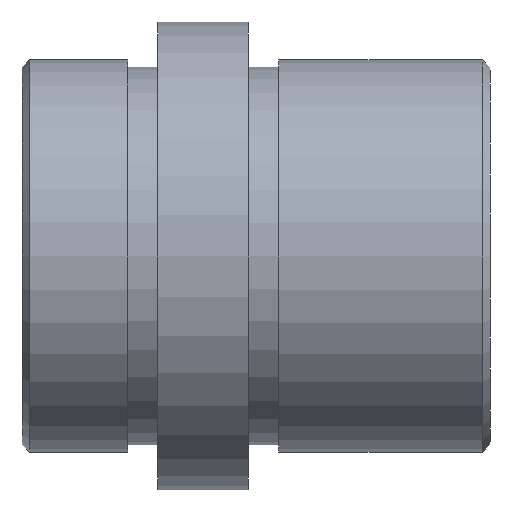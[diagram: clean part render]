
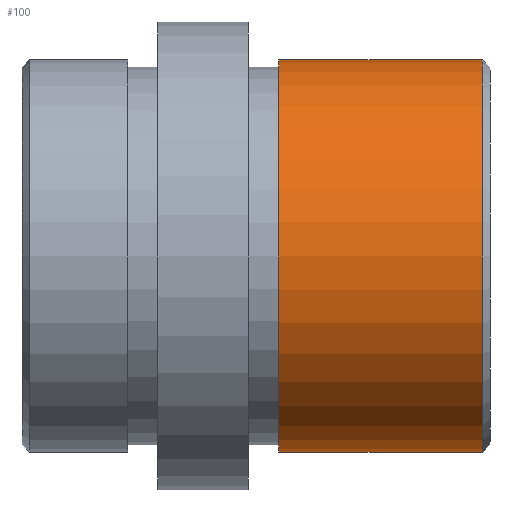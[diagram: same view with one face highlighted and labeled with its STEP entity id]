
A CAD part, front view. The second image highlights one B-rep face of the part: STEP entity #100.
In plain terms, the highlighted face is a revolution surface.
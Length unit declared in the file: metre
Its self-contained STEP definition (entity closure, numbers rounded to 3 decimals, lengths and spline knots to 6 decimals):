
#100 = ADVANCED_FACE( '', ( #157 ), #158, .F. );
#157 = FACE_OUTER_BOUND( '', #250, .T. );
#158 = SURFACE_OF_REVOLUTION( '', #251, #252 );
#250 = EDGE_LOOP( '', ( #419, #420, #421, #422 ) );
#251 = B_SPLINE_CURVE_WITH_KNOTS( '', 1, ( #423, #424 ), .UNSPECIFIED., .F., .F., ( 2, 2 ), ( -10000., 10000. ), .UNSPECIFIED. );
#252 = AXIS1_PLACEMENT( '', #425, #426 );
#419 = ORIENTED_EDGE( '', *, *, #492, .T. );
#420 = ORIENTED_EDGE( '', *, *, #490, .T. );
#421 = ORIENTED_EDGE( '', *, *, #445, .F. );
#422 = ORIENTED_EDGE( '', *, *, #489, .T. );
#423 = CARTESIAN_POINT( '', ( 10000.0305, 0., 0.013 ) );
#424 = CARTESIAN_POINT( '', ( -9999.9695, 0., 0.013 ) );
#425 = CARTESIAN_POINT( '', ( 0., 0., 0. ) );
#426 = DIRECTION( '', ( 1., 0., 0. ) );
#445 = EDGE_CURVE( '', #499, #500, #501, .T. );
#489 = EDGE_CURVE( '', #499, #571, #572, .F. );
#490 = EDGE_CURVE( '', #573, #500, #574, .T. );
#492 = EDGE_CURVE( '', #571, #573, #576, .T. );
#499 = VERTEX_POINT( '', #583 );
#500 = VERTEX_POINT( '', #584 );
#501 = CIRCLE( '', #585, 0.013 );
#571 = VERTEX_POINT( '', #671 );
#572 = LINE( '', #672, #673 );
#573 = VERTEX_POINT( '', #674 );
#574 = LINE( '', #675, #676 );
#576 = CIRCLE( '', #678, 0.013 );
#583 = CARTESIAN_POINT( '', ( 0.017, 0., -0.013 ) );
#584 = CARTESIAN_POINT( '', ( 0.017, 0., 0.013 ) );
#585 = AXIS2_PLACEMENT_3D( '', #689, #690, #691 );
#671 = CARTESIAN_POINT( '', ( 0.0305, 0., -0.013 ) );
#672 = CARTESIAN_POINT( '', ( 0.0305, 0., -0.013 ) );
#673 = VECTOR( '', #789, 1. );
#674 = CARTESIAN_POINT( '', ( 0.0305, 0., 0.013 ) );
#675 = CARTESIAN_POINT( '', ( 0.0305, 0., 0.013 ) );
#676 = VECTOR( '', #790, 1. );
#678 = AXIS2_PLACEMENT_3D( '', #794, #795, #796 );
#689 = CARTESIAN_POINT( '', ( 0.017, 0., 0. ) );
#690 = DIRECTION( '', ( -1., 0., 0. ) );
#691 = DIRECTION( '', ( 0., 0., 1. ) );
#789 = DIRECTION( '', ( -1., 0., 0. ) );
#790 = DIRECTION( '', ( -1., 0., 0. ) );
#794 = CARTESIAN_POINT( '', ( 0.0305, 0., 0. ) );
#795 = DIRECTION( '', ( -1., 0., 0. ) );
#796 = DIRECTION( '', ( 0., 0., 1. ) );
